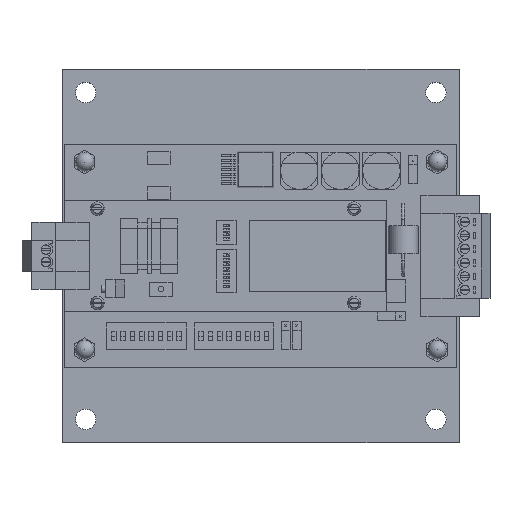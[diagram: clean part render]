
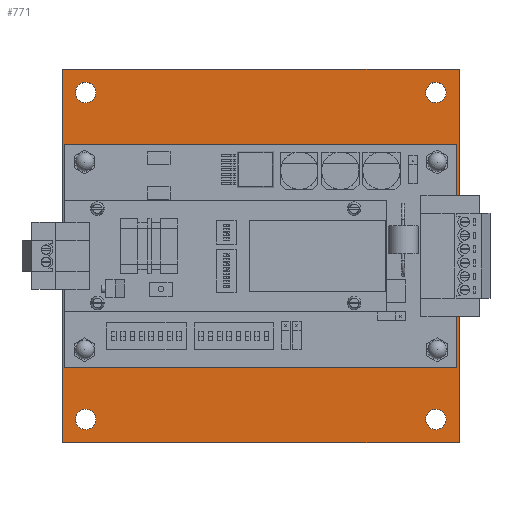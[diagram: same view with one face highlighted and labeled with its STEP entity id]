
A CAD part, top view. The second image highlights one B-rep face of the part: STEP entity #771.
In plain terms, the highlighted planar face has unit normal (0, 0, 1).
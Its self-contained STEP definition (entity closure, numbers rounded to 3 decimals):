
#428=CARTESIAN_POINT('',(101.925,77.724,0.));
#429=VERTEX_POINT('',#428);
#430=CARTESIAN_POINT('',(101.925,76.335,0.));
#431=DIRECTION('',(0.,0.,-1.0));
#432=DIRECTION('',(0.,-1.0,0.));
#433=AXIS2_PLACEMENT_3D('',#430,#431,#432);
#434=CIRCLE('',#433,1.389);
#435=EDGE_CURVE('',#429,#429,#434,.T.);
#448=CARTESIAN_POINT('',(6.025,77.724,0.));
#449=VERTEX_POINT('',#448);
#450=CARTESIAN_POINT('',(6.025,76.335,0.));
#451=DIRECTION('',(0.0,0.0,-1.0));
#452=DIRECTION('',(0.0,-1.0,0.0));
#453=AXIS2_PLACEMENT_3D('',#450,#451,#452);
#454=CIRCLE('',#453,1.389);
#455=EDGE_CURVE('',#449,#449,#454,.T.);
#468=CARTESIAN_POINT('',(6.025,26.654,0.));
#469=VERTEX_POINT('',#468);
#470=CARTESIAN_POINT('',(6.025,25.265,0.));
#471=DIRECTION('',(0.0,0.0,-1.0));
#472=DIRECTION('',(0.0,-1.0,0.0));
#473=AXIS2_PLACEMENT_3D('',#470,#471,#472);
#474=CIRCLE('',#473,1.389);
#475=EDGE_CURVE('',#469,#469,#474,.T.);
#488=CARTESIAN_POINT('',(101.925,26.654,0.));
#489=VERTEX_POINT('',#488);
#490=CARTESIAN_POINT('',(101.925,25.265,0.));
#491=DIRECTION('',(0.0,0.0,-1.0));
#492=DIRECTION('',(0.0,-1.0,0.0));
#493=AXIS2_PLACEMENT_3D('',#490,#491,#492);
#494=CIRCLE('',#493,1.389);
#495=EDGE_CURVE('',#489,#489,#494,.T.);
#516=CARTESIAN_POINT('',(104.378,95.25,0.));
#517=VERTEX_POINT('',#516);
#518=CARTESIAN_POINT('',(101.6,95.25,0.));
#519=DIRECTION('',(0.0,0.0,-1.0));
#520=DIRECTION('',(-1.0,0.0,0.0));
#521=AXIS2_PLACEMENT_3D('',#518,#519,#520);
#522=CIRCLE('',#521,2.778);
#523=EDGE_CURVE('',#517,#517,#522,.T.);
#544=CARTESIAN_POINT('',(9.128,6.35,0.0));
#545=VERTEX_POINT('',#544);
#546=CARTESIAN_POINT('',(6.35,6.35,0.));
#547=DIRECTION('',(0.0,0.0,-1.0));
#548=DIRECTION('',(-1.0,0.0,0.0));
#549=AXIS2_PLACEMENT_3D('',#546,#547,#548);
#550=CIRCLE('',#549,2.778);
#551=EDGE_CURVE('',#545,#545,#550,.T.);
#572=CARTESIAN_POINT('',(104.378,6.35,0.0));
#573=VERTEX_POINT('',#572);
#574=CARTESIAN_POINT('',(101.6,6.35,0.));
#575=DIRECTION('',(0.0,0.0,-1.0));
#576=DIRECTION('',(-1.0,0.0,0.0));
#577=AXIS2_PLACEMENT_3D('',#574,#575,#576);
#578=CIRCLE('',#577,2.778);
#579=EDGE_CURVE('',#573,#573,#578,.T.);
#600=CARTESIAN_POINT('',(9.128,95.25,0.));
#601=VERTEX_POINT('',#600);
#602=CARTESIAN_POINT('',(6.35,95.25,0.));
#603=DIRECTION('',(0.0,0.0,-1.0));
#604=DIRECTION('',(-1.0,0.0,0.0));
#605=AXIS2_PLACEMENT_3D('',#602,#603,#604);
#606=CIRCLE('',#605,2.778);
#607=EDGE_CURVE('',#601,#601,#606,.T.);
#627=CARTESIAN_POINT('',(107.95,0.0,0.0));
#628=VERTEX_POINT('',#627);
#635=CARTESIAN_POINT('',(0.0,0.0,0.0));
#636=VERTEX_POINT('',#635);
#637=CARTESIAN_POINT('',(0.0,0.0,0.0));
#638=DIRECTION('',(1.0,0.0,0.0));
#639=VECTOR('',#638,107.95);
#640=LINE('',#637,#639);
#641=EDGE_CURVE('',#636,#628,#640,.T.);
#657=CARTESIAN_POINT('',(107.95,101.6,0.0));
#658=VERTEX_POINT('',#657);
#659=CARTESIAN_POINT('',(107.95,0.0,0.0));
#660=DIRECTION('',(0.0,1.0,0.0));
#661=VECTOR('',#660,101.6);
#662=LINE('',#659,#661);
#663=EDGE_CURVE('',#628,#658,#662,.T.);
#688=CARTESIAN_POINT('',(0.0,101.6,0.0));
#689=VERTEX_POINT('',#688);
#705=CARTESIAN_POINT('',(0.0,101.6,0.0));
#706=DIRECTION('',(0.0,-1.0,0.0));
#707=VECTOR('',#706,101.6);
#708=LINE('',#705,#707);
#709=EDGE_CURVE('',#689,#636,#708,.T.);
#726=CARTESIAN_POINT('',(107.95,101.6,0.0));
#727=DIRECTION('',(-1.0,0.0,0.0));
#728=VECTOR('',#727,107.95);
#729=LINE('',#726,#728);
#730=EDGE_CURVE('',#658,#689,#729,.T.);
#736=CARTESIAN_POINT('',(53.975,101.6,0.));
#737=DIRECTION('',(0.0,0.0,1.0));
#738=DIRECTION('',(1.0,0.0,0.0));
#739=AXIS2_PLACEMENT_3D('',#736,#737,#738);
#740=PLANE('',#739);
#741=ORIENTED_EDGE('',*,*,#663,.T.);
#742=ORIENTED_EDGE('',*,*,#730,.T.);
#743=ORIENTED_EDGE('',*,*,#709,.T.);
#744=ORIENTED_EDGE('',*,*,#641,.T.);
#745=EDGE_LOOP('',(#741,#742,#743,#744));
#746=FACE_OUTER_BOUND('',#745,.T.);
#747=ORIENTED_EDGE('',*,*,#435,.T.);
#748=EDGE_LOOP('',(#747));
#749=FACE_BOUND('',#748,.T.);
#750=ORIENTED_EDGE('',*,*,#455,.T.);
#751=EDGE_LOOP('',(#750));
#752=FACE_BOUND('',#751,.T.);
#753=ORIENTED_EDGE('',*,*,#475,.T.);
#754=EDGE_LOOP('',(#753));
#755=FACE_BOUND('',#754,.T.);
#756=ORIENTED_EDGE('',*,*,#495,.T.);
#757=EDGE_LOOP('',(#756));
#758=FACE_BOUND('',#757,.T.);
#759=ORIENTED_EDGE('',*,*,#607,.T.);
#760=EDGE_LOOP('',(#759));
#761=FACE_BOUND('',#760,.T.);
#762=ORIENTED_EDGE('',*,*,#579,.T.);
#763=EDGE_LOOP('',(#762));
#764=FACE_BOUND('',#763,.T.);
#765=ORIENTED_EDGE('',*,*,#551,.T.);
#766=EDGE_LOOP('',(#765));
#767=FACE_BOUND('',#766,.T.);
#768=ORIENTED_EDGE('',*,*,#523,.T.);
#769=EDGE_LOOP('',(#768));
#770=FACE_BOUND('',#769,.T.);
#771=ADVANCED_FACE('',(#746,#749,#752,#755,#758,#761,#764,#767,#770),#740,.T.);
